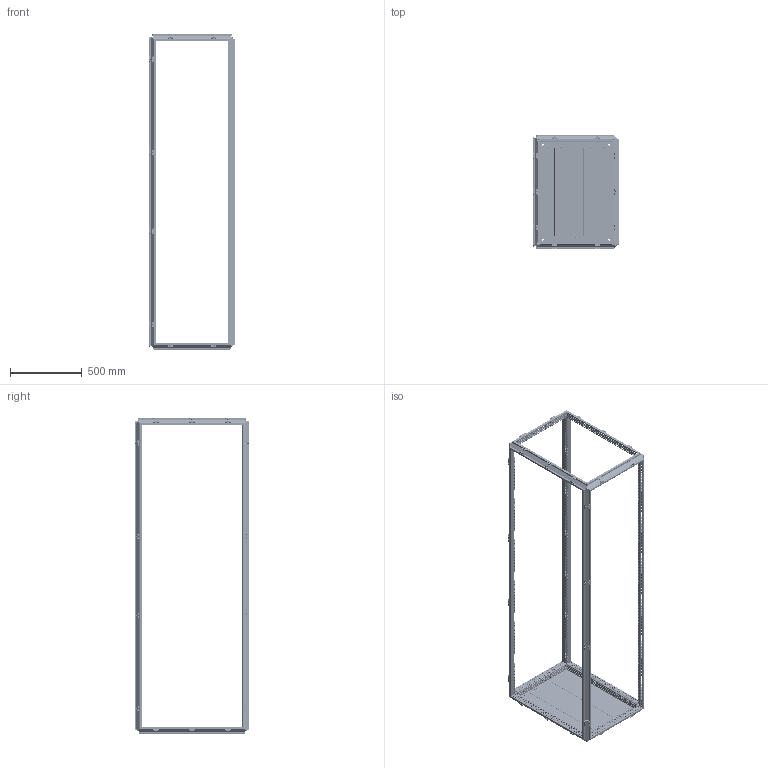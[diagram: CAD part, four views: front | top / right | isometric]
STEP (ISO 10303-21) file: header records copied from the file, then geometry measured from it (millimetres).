
FILE_DESCRIPTION(('STEP AP203'), '1');
FILE_NAME('3000 忺謤僔 捘', '', ('UNSPECIFIED'), ('UNSPECIFIED'), 'C3D Converter', 'C3D Toolkit', '');
FILE_SCHEMA(('CONFIG_CONTROL_DESIGN'));
Length unit declared in the file: millimetre
Products named in the file (13): 3000.220.80.60 СБ; 3000; 3007.175; 3007.75; 3007.200; 3009.04; 3009.04.01; 3009.04.2; 3009.04.01.2
Assembly tree (144 placements, depth 3):
  3000.220.80.60 СБ
    3000
    (unnamed)  x96
    3007.175
    (unnamed)  x10
    3007.75
    3007.200
    3009.04  x10
      3009.04.01
      (unnamed)
      (unnamed)
    3009.04.2  x15
      3009.04.01.2
      (unnamed)
      (unnamed)
Bounding box: 597 x 797 x 2198.5 mm (x, y, z)
Volume: 4180766.8 mm3; surface area: 5569737.3 mm2
Topology: 241 solids, 241 shells, 18385 faces, 51639 edges, 34104 vertices
Faces by surface type: plane 12925, cylinder 4504, cone 652, torus 244, bspline 60
Full cylindrical faces by diameter (mm): 4.134 x136, 4.5 x2108, 4.8 x10, 5 x146, 5.8 x40, 6.8 x192, 7 x96, 7.5 x50, 8 x96, 9.2 x50, 10.106 x8, 14 x4
Entity records: 420140 total; most frequent: CARTESIAN_POINT 76229, ORIENTED_EDGE 67742, DIRECTION 64057, EDGE_CURVE 33871, LINE 27931, VECTOR 27931, VERTEX_POINT 23894, EDGE_LOOP 23183
